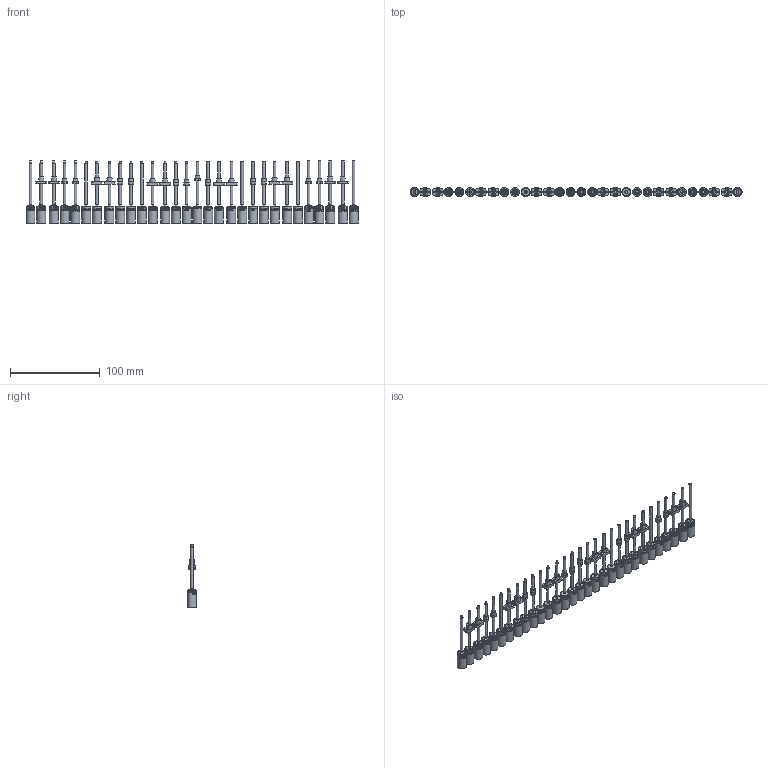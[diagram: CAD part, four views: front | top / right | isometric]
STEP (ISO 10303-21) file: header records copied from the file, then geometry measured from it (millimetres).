
FILE_DESCRIPTION(/* description */ (''),/* implementation_level */ '2;1');
FILE_NAME(/* name */ '10L-3stage_SL_standard_KWNx_KWS1_KFx.stp',/* time_stamp */ '2024-02-27T15:17:02+01:00',/* author */ ('DR. FRITZ FAULHABER GmbH & Co. KG'),/* organization */ ('DR. FRITZ FAULHABER GmbH & Co. KG'),/* preprocessor_version */ 'ST-DEVELOPER v19.3',/* originating_system */ 'SIEMENS PLM Software NX2212.4000',/* authorisation */ '');
FILE_SCHEMA (('AUTOMOTIVE_DESIGN { 1 0 10303 214 3 1 1 1 }'));
Length unit declared in the file: millimetre
Products named in the file (1): C_objects
Bounding box: 370 x 10 x 69.2 mm (x, y, z)
Volume: 56139 mm3; surface area: 43736.6 mm2
Topology: 30 solids, 30 shells, 3824 faces, 9409 edges, 6279 vertices
Faces by surface type: plane 2148, bspline 885, cylinder 741, cone 50
Full cylindrical faces by diameter (mm): 0.95 x40, 1.8 x24, 2 x15, 2.2 x30, 3 x54, 3.12 x30, 3.52 x30, 4.959 x30, 5 x12, 6 x42, 7 x20, 8.5 x10, 9.2 x10, 9.8 x30, 10 x70
Entity records: 177732 total; most frequent: CARTESIAN_POINT 80498, ORIENTED_EDGE 17548, DIRECTION 11833, EDGE_CURVE 8774, VERTEX_POINT 6146, EDGE_LOOP 5008, AXIS2_PLACEMENT_3D 4888, B_SPLINE_CURVE_WITH_KNOTS 4770
